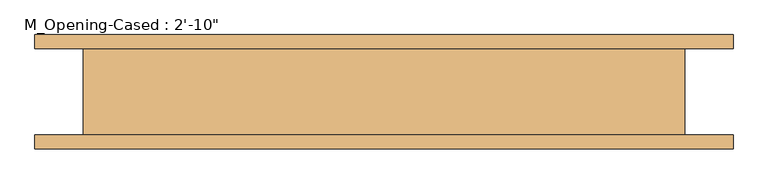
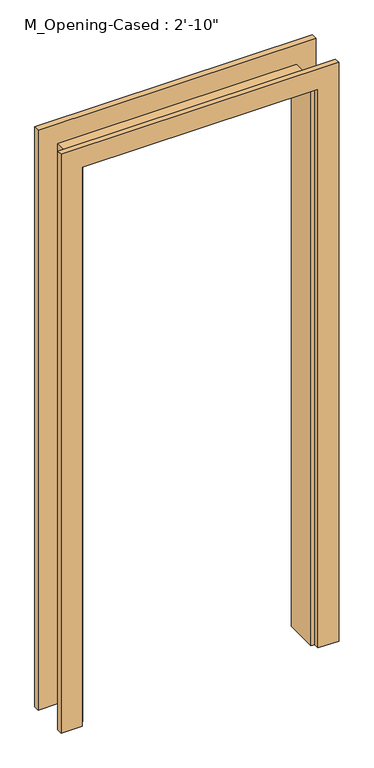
"""IFC4 building model written with IfcOpenShell, lengths in millimetres: door geometry."""

from ifc_helpers import new_model, si_unit, frame, origin, place, context, project, spatial, polyline, outline, extrude, faceted_brep, source, transform, mapped, element, save


def door_ff2ed9a9(model_context):
    return source(origin(), model_context, "Body", "SolidModel", [
        extrude(outline(polyline([(0.0, -433.6386567), (2127.25, -433.6386567), (2127.25, 417.2613433), (0.0, 417.2613433), (0.0, 492.2613433), (2202.25, 492.2613433), (2202.25, -508.6386567), (0.0, -508.6386567), (0.0, -433.6386567)])), frame((0.0, -81.9125, 0.0), z_axis=(0.0, 1.0, 0.0), x_axis=(0.0, 0.0, 1.0)), (0.0, 0.0, 1.0), 20.0),
        extrude(outline(polyline([(0.0, 492.2613433), (2207.65, 492.2613433), (2207.65, -508.6386567), (0.0, -508.6386567), (0.0, -433.6386567), (2127.25, -433.6386567), (2127.25, 417.2613433), (0.0, 417.2613433), (0.0, 492.2613433)])), frame((0.0, 61.9125, 0.0), z_axis=(0.0, 1.0, 0.0), x_axis=(0.0, 0.0, 1.0)), (0.0, 0.0, 1.0), 20.0),
        faceted_brep([(403.6113433, 61.9125, 0.0), (422.6613433, 61.9125, 0.0), (422.6613433, -61.9125, 0.0), (403.6113433, -61.9125, 0.0), (403.6113433, 61.9125, 2113.6), (422.6613433, 61.9125, 2132.65), (422.6613433, -61.9125, 2132.65), (403.6113433, -61.9125, 2113.6), (-419.9886567, 61.9125, 0.0), (-419.9886567, -61.9125, 0.0), (-439.0386567, -61.9125, 0.0), (-439.0386567, 61.9125, 0.0), (-419.9886567, 61.9125, 2113.6), (-419.9886567, -61.9125, 2113.6), (-439.0386567, -61.9125, 2132.65), (-439.0386567, 61.9125, 2132.65)], [[[0, 1, 2, 3]], [[1, 0, 4, 5]], [[2, 1, 5, 6]], [[3, 2, 6, 7]], [[0, 3, 7, 4]], [[8, 9, 10, 11]], [[12, 13, 9, 8]], [[13, 14, 10, 9]], [[14, 15, 11, 10]], [[15, 12, 8, 11]], [[5, 4, 12, 15]], [[6, 5, 15, 14]], [[7, 6, 14, 13]], [[4, 7, 13, 12]]]),
    ])


if __name__ == "__main__":
    model = new_model("IFC4")
    model_context = context("Model", 3, world=origin())
    ifc_project = project(units=[si_unit("LENGTHUNIT", "METRE", prefix="MILLI")], contexts=[model_context])
    site = spatial("IfcSite", under=ifc_project)
    building = spatial("IfcBuilding", under=site)
    placement = place(None, origin())
    door_shape = door_ff2ed9a9(model_context)
    element("IfcDoor", 1, ObjectType="M_Opening-Cased : 2'-10\"", at=placement, inside=building, context=model_context, shape_type="MappedRepresentation", body=[
        mapped(door_shape, transform((0.0, 0.0, 0.0), x_axis=(1.0, 0.0, 0.0), y_axis=(0.0, 1.0, 0.0), z_axis=(0.0, 0.0, 1.0))),
    ])
    save(model, "model.ifc")
